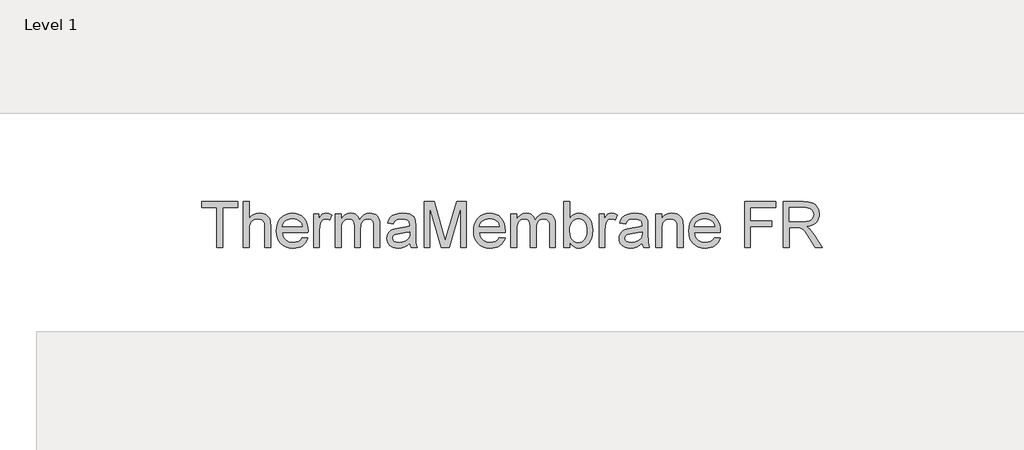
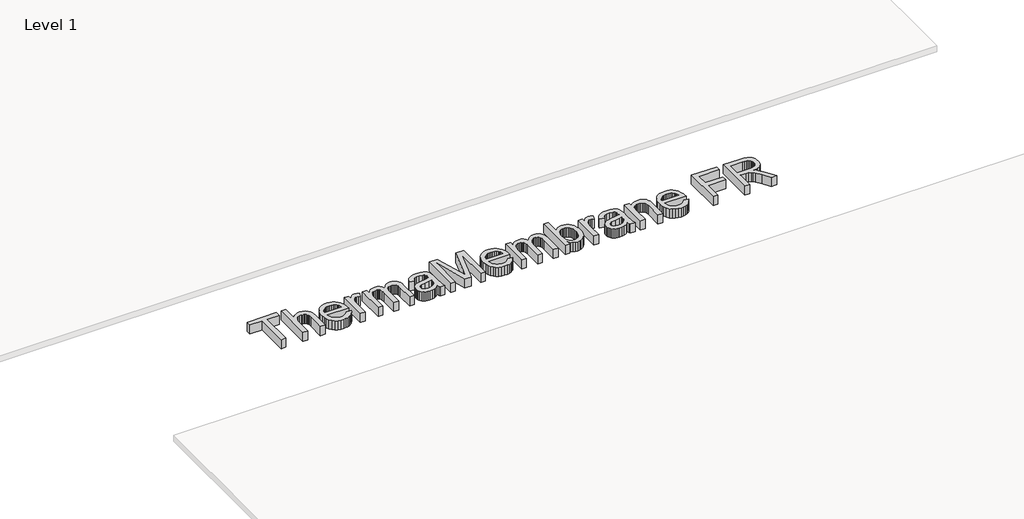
# One storey, part 26 of 27: 1 proxy.
"""IFC4 building model written with IfcOpenShell, lengths in millimetres."""

from ifc_helpers import new_model, si_unit, origin, origin_with_axes, place, context, project, spatial, polyline, outline, extrude, element, save

model = new_model("IFC4")

# Units and contexts
model_context = context("Model", 3, world=origin())
ifc_project = project(units=[si_unit("LENGTHUNIT", "METRE", prefix="MILLI")], contexts=[model_context])

# Site, building, storey
site = spatial("IfcSite", under=ifc_project)
building = spatial("IfcBuilding", under=site)
storey = spatial("IfcBuildingStorey", under=building, Name="Level 1", Elevation=0.0)

# Proxy
placement = place(None, origin())
element("IfcBuildingElementProxy", 1, Name="600mm Arial", ObjectType="600mm Arial", at=placement, inside=storey, context=model_context, shape_type="SweptSolid", body=[
    extrude(outline(polyline([(81774.77699, -34088.4076888), (81774.77699, -33571.4846119), (81580.9308362, -33571.4846119), (81580.9308362, -33497.6384581), (82042.4692977, -33497.6384581), (82042.4692977, -33571.4846119), (81848.6231439, -33571.4846119), (81848.6231439, -34088.4076888), (81774.77699, -34088.4076888)])), origin_with_axes(), (0.0, 0.0, 1.0), 150.0),
    extrude(outline(polyline([(82116.3154516, -34088.4076888), (82116.3154516, -33497.6384581), (82190.1616054, -33497.6384581), (82190.1616054, -33714.8499965), (82217.2860045, -33684.4353331), (82247.74574, -33662.7105734), (82281.5408122, -33649.6757177), (82318.6712208, -33645.3307657), (82363.2745862, -33650.0723523), (82401.6039131, -33664.2971119), (82431.7842016, -33686.8872561), (82451.9404516, -33716.7249965), (82463.2986247, -33757.7225927), (82467.0846824, -33813.7923042), (82467.0846824, -34088.4076888), (82393.2385285, -34088.4076888), (82393.2385285, -33821.436535), (82391.7691775, -33796.5026407), (82387.3611247, -33775.2105734), (82380.0143699, -33757.5603331), (82369.7289131, -33743.5519196), (82356.7481439, -33732.8878571), (82341.3154516, -33725.2706696), (82323.4308362, -33720.7003571), (82303.0942977, -33719.1769196), (82271.886365, -33723.2874965), (82242.58949, -33735.6192273), (82218.3226631, -33754.9822081), (82202.2048747, -33780.186535), (82193.1724227, -33813.6841311), (82190.1616054, -33857.9269196), (82190.1616054, -34088.4076888), (82116.3154516, -34088.4076888)])), origin_with_axes(), (0.0, 0.0, 1.0), 150.0),
    extrude(outline(polyline([(82872.3731439, -33959.1769196), (82944.77699, -33968.4076888), (82933.675728, -33997.4070879), (82918.6892497, -34022.9629773), (82899.8175549, -34045.0753571), (82877.0606439, -34063.7442273), (82850.6528915, -34078.5729532), (82820.8286727, -34089.1649004), (82787.5879876, -34095.5200686), (82750.9308362, -34097.6384581), (82705.1105237, -34093.9831095), (82664.2842016, -34083.0170638), (82628.4518699, -34064.740321), (82597.6135285, -34039.1528811), (82572.8148506, -34006.9668835), (82555.1015093, -33968.8944677), (82544.4735045, -33924.9356335), (82540.9308362, -33875.0903811), (82544.5095622, -33823.5549244), (82555.24574, -33778.1312465), (82573.1393699, -33738.8193475), (82598.1904516, -33705.6192273), (82628.9476631, -33679.2430254), (82663.9596824, -33660.4028811), (82703.2265093, -33649.0987946), (82746.7481439, -33645.3307657), (82788.8680357, -33649.0897802), (82826.9584804, -33660.3668234), (82861.019478, -33679.1618956), (82891.0510285, -33705.4749965), (82915.5657521, -33738.6030013), (82933.0762689, -33777.842785), (82943.582579, -33823.1943475), (82947.0846824, -33874.6576888), (82946.65199, -33894.561535), (82614.77699, -33894.561535), (82619.0543338, -33924.029684), (82627.559442, -33949.8379773), (82640.2923146, -33971.9864148), (82657.2529516, -33990.4749965), (82677.503853, -34005.0513186), (82700.1075189, -34015.4629773), (82725.0639492, -34021.7099725), (82752.3731439, -34023.7923042), (82791.6760285, -34019.9341311), (82824.77699, -34008.3596119), (82851.6760285, -33988.3475927), (82872.3731439, -33959.1769196)]), holes=[polyline([(82614.77699, -33820.7153811), (82873.2385285, -33820.7153811), (82863.2505477, -33781.7009581), (82854.6598025, -33766.35841), (82843.6712208, -33753.7923042), (82823.5329997, -33738.6480734), (82800.6183362, -33727.8307657), (82774.9272304, -33721.3403811), (82746.4596824, -33719.1769196), (82720.4936367, -33720.9031816), (82696.6820381, -33726.0819677), (82675.0248867, -33734.7132778), (82655.5221824, -33746.7971119), (82639.1564973, -33761.7745758), (82626.9104035, -33779.0867754), (82618.7839011, -33798.7337105), (82614.77699, -33820.7153811)])]), origin_with_axes(), (0.0, 0.0, 1.0), 150.0),
    extrude(outline(polyline([(83020.9308362, -34088.4076888), (83020.9308362, -33654.561535), (83085.5462208, -33654.561535), (83085.5462208, -33718.7442273), (83109.4164131, -33681.5326888), (83131.4116054, -33659.6096119), (83153.4789131, -33648.9004773), (83177.5654516, -33645.3307657), (83214.3442977, -33651.0278811), (83251.700067, -33668.1192273), (83227.0366054, -33734.3211504), (83201.075067, -33722.9629773), (83175.1135285, -33719.1769196), (83153.0642497, -33722.8187465), (83133.3587208, -33733.7442273), (83117.4392497, -33751.124035), (83106.7481439, -33774.1288427), (83097.7697785, -33815.3788427), (83094.77699, -33860.3788427), (83094.77699, -34088.4076888), (83020.9308362, -34088.4076888)])), origin_with_axes(), (0.0, 0.0, 1.0), 150.0),
    extrude(outline(polyline([(83297.8539131, -34088.4076888), (83297.8539131, -33654.561535), (83371.700067, -33654.561535), (83371.700067, -33725.9557657), (83393.9116054, -33693.1612946), (83422.4692977, -33667.4701888), (83456.3995862, -33650.8656215), (83494.7289131, -33645.3307657), (83535.7986247, -33650.9737946), (83553.277591, -33658.0275806), (83568.7192977, -33667.9028811), (83593.3106439, -33695.0002369), (83609.3923747, -33731.1480734), (83636.309442, -33693.6030013), (83667.012567, -33666.7850927), (83701.5017497, -33650.6943475), (83739.77699, -33645.3307657), (83769.3397905, -33647.5618355), (83795.2878074, -33654.2550446), (83817.6210405, -33665.4103931), (83836.33949, -33681.0278811), (83851.1366655, -33701.287797), (83861.7060766, -33726.3704292), (83868.0477232, -33756.2757778), (83870.1616054, -33791.0038427), (83870.1616054, -34088.4076888), (83796.3154516, -34088.4076888), (83796.3154516, -33822.7346119), (83794.6027112, -33785.9016792), (83789.46449, -33761.0759581), (83779.8370862, -33744.0747561), (83764.6567977, -33730.7153811), (83745.1315574, -33722.061535), (83722.4692977, -33719.1769196), (83701.5423146, -33721.0248763), (83682.4632881, -33726.5687465), (83665.2322184, -33735.8085302), (83649.8491054, -33748.7442273), (83637.1973626, -33765.7544436), (83628.1604035, -33787.217785), (83622.738228, -33813.1342513), (83620.9308362, -33843.5038427), (83620.9308362, -34088.4076888), (83547.0846824, -34088.4076888), (83547.0846824, -33814.5134581), (83542.8118458, -33772.7586504), (83529.9933362, -33742.9749965), (83520.081978, -33732.5633379), (83507.4392497, -33725.1264388), (83492.0651511, -33720.6642994), (83473.9596824, -33719.1769196), (83445.5101631, -33723.1432657), (83419.2962208, -33735.0423042), (83397.6616054, -33754.5855734), (83382.950067, -33781.4846119), (83374.512567, -33818.8043234), (83371.700067, -33869.6096119), (83371.700067, -34088.4076888), (83297.8539131, -34088.4076888)])), origin_with_axes(), (0.0, 0.0, 1.0), 150.0),
    extrude(outline(polyline([(84257.8539131, -34033.0230734), (84222.5714612, -34063.2754773), (84186.2433362, -34083.0711504), (84148.0402112, -34093.9966311), (84107.1327593, -34097.6384581), (84074.2526511, -34095.4479532), (84045.4200189, -34088.8764388), (84020.6348626, -34077.9239148), (83999.8971824, -34062.5903811), (83983.5224828, -34043.8493956), (83971.8262689, -34022.6745157), (83964.8085405, -33999.0657417), (83962.4692977, -33973.0230734), (83966.0029516, -33942.4100927), (83976.6039131, -33914.6096119), (83992.9560766, -33890.811535), (84013.7433362, -33872.2057657), (84038.1724227, -33858.1432657), (84065.450067, -33847.9749965), (84129.3442977, -33836.8692273), (84204.8491054, -33825.186535), (84257.4212208, -33811.4846119), (84257.8539131, -33795.0423042), (84252.7697785, -33762.0855734), (84246.4146102, -33749.8800446), (84237.5173747, -33740.5230734), (84222.1387689, -33731.1841311), (84203.4067977, -33724.5134581), (84155.8827593, -33719.1769196), (84111.8923747, -33722.7286023), (84081.1712208, -33733.3836504), (84060.2217016, -33753.0891792), (84045.5462208, -33783.7923042), (83971.700067, -33774.561535), (83984.5185766, -33734.1769196), (84003.6471824, -33702.4461504), (84030.87074, -33678.1793234), (84067.9741054, -33660.186535), (84113.3527112, -33649.0447081), (84165.40199, -33645.3307657), (84215.323865, -33648.6120157), (84254.8971824, -33658.4557657), (84284.7349227, -33673.2574484), (84305.450067, -33691.4124965), (84319.1880477, -33713.85841), (84328.0942977, -33741.5326888), (84331.700067, -33806.1480734), (84331.700067, -33898.0230734), (84335.450067, -34026.3163427), (84341.0029516, -34058.0290831), (84350.1616054, -34088.4076888), (84276.3154516, -34088.4076888), (84264.4885285, -34062.7346119), (84257.8539131, -34033.0230734)]), holes=[polyline([(84257.8539131, -33885.3307657), (84208.2385285, -33897.6264388), (84138.7192977, -33907.9749965), (84075.1856439, -33919.9461504), (84058.653192, -33928.1312465), (84046.4116054, -33939.4173042), (84038.83949, -33952.9389388), (84036.3154516, -33967.8307657), (84041.8142497, -33989.7899004), (84058.3106439, -34007.7826888), (84085.4440574, -34019.7899004), (84122.8539131, -34023.7923042), (84162.5173747, -34019.3752369), (84197.5654516, -34006.124035), (84225.9789131, -33986.5987946), (84245.7385285, -33963.3596119), (84254.5005477, -33939.4173042), (84257.4212208, -33906.2442273), (84257.8539131, -33885.3307657)])]), origin_with_axes(), (0.0, 0.0, 1.0), 150.0),
    extrude(outline(polyline([(84442.4692977, -34088.4076888), (84442.4692977, -33497.6384581), (84569.5366054, -33497.6384581), (84690.40199, -33914.0326888), (84714.77699, -34001.0038427), (84741.1712208, -33906.8211504), (84860.0173747, -33497.6384581), (84987.0846824, -33497.6384581), (84987.0846824, -34088.4076888), (84913.2385285, -34088.4076888), (84913.2385285, -33571.4846119), (84764.825067, -34088.4076888), (84664.7289131, -34088.4076888), (84516.3154516, -33571.4846119), (84516.3154516, -34088.4076888), (84442.4692977, -34088.4076888)])), origin_with_axes(), (0.0, 0.0, 1.0), 150.0),
    extrude(outline(polyline([(85410.8346824, -33959.1769196), (85483.2385285, -33968.4076888), (85472.1372665, -33997.4070879), (85457.1507881, -34022.9629773), (85438.2790934, -34045.0753571), (85415.5221824, -34063.7442273), (85389.1144299, -34078.5729532), (85359.2902112, -34089.1649004), (85326.0495261, -34095.5200686), (85289.3923747, -34097.6384581), (85243.5720622, -34093.9831095), (85202.74574, -34083.0170638), (85166.9134083, -34064.740321), (85136.075067, -34039.1528811), (85111.2763891, -34006.9668835), (85093.5630477, -33968.8944677), (85082.9350429, -33924.9356335), (85079.3923747, -33875.0903811), (85082.9711006, -33823.5549244), (85093.7072785, -33778.1312465), (85111.6009083, -33738.8193475), (85136.65199, -33705.6192273), (85167.4092016, -33679.2430254), (85202.4212208, -33660.4028811), (85241.6880477, -33649.0987946), (85285.2096824, -33645.3307657), (85327.3295742, -33649.0897802), (85365.4200189, -33660.3668234), (85399.4810165, -33679.1618956), (85429.512567, -33705.4749965), (85454.0272905, -33738.6030013), (85471.5378074, -33777.842785), (85482.0441174, -33823.1943475), (85485.5462208, -33874.6576888), (85485.1135285, -33894.561535), (85153.2385285, -33894.561535), (85157.5158723, -33924.029684), (85166.0209804, -33949.8379773), (85178.753853, -33971.9864148), (85195.71449, -33990.4749965), (85215.9653915, -34005.0513186), (85238.5690574, -34015.4629773), (85263.5254876, -34021.7099725), (85290.8346824, -34023.7923042), (85330.137567, -34019.9341311), (85363.2385285, -34008.3596119), (85390.137567, -33988.3475927), (85410.8346824, -33959.1769196)]), holes=[polyline([(85153.2385285, -33820.7153811), (85411.700067, -33820.7153811), (85401.7120862, -33781.7009581), (85393.121341, -33766.35841), (85382.1327593, -33753.7923042), (85361.9945381, -33738.6480734), (85339.0798747, -33727.8307657), (85313.3887689, -33721.3403811), (85284.9212208, -33719.1769196), (85258.9551751, -33720.9031816), (85235.1435766, -33726.0819677), (85213.4864251, -33734.7132778), (85193.9837208, -33746.7971119), (85177.6180357, -33761.7745758), (85165.371942, -33779.0867754), (85157.2454396, -33798.7337105), (85153.2385285, -33820.7153811)])]), origin_with_axes(), (0.0, 0.0, 1.0), 150.0),
    extrude(outline(polyline([(85559.3923747, -34088.4076888), (85559.3923747, -33654.561535), (85633.2385285, -33654.561535), (85633.2385285, -33725.9557657), (85655.450067, -33693.1612946), (85684.0077593, -33667.4701888), (85717.9380477, -33650.8656215), (85756.2673747, -33645.3307657), (85797.3370862, -33650.9737946), (85814.8160525, -33658.0275806), (85830.2577593, -33667.9028811), (85854.8491054, -33695.0002369), (85870.9308362, -33731.1480734), (85897.8479035, -33693.6030013), (85928.5510285, -33666.7850927), (85963.0402112, -33650.6943475), (86001.3154516, -33645.3307657), (86030.8782521, -33647.5618355), (86056.8262689, -33654.2550446), (86079.1595021, -33665.4103931), (86097.8779516, -33681.0278811), (86112.6751271, -33701.287797), (86123.2445381, -33726.3704292), (86129.5861848, -33756.2757778), (86131.700067, -33791.0038427), (86131.700067, -34088.4076888), (86057.8539131, -34088.4076888), (86057.8539131, -33822.7346119), (86056.1411727, -33785.9016792), (86051.0029516, -33761.0759581), (86041.3755477, -33744.0747561), (86026.1952593, -33730.7153811), (86006.6700189, -33722.061535), (85984.0077593, -33719.1769196), (85963.0807761, -33721.0248763), (85944.0017497, -33726.5687465), (85926.7706799, -33735.8085302), (85911.387567, -33748.7442273), (85898.7358242, -33765.7544436), (85889.698865, -33787.217785), (85884.2766896, -33813.1342513), (85882.4692977, -33843.5038427), (85882.4692977, -34088.4076888), (85808.6231439, -34088.4076888), (85808.6231439, -33814.5134581), (85804.3503074, -33772.7586504), (85791.5317977, -33742.9749965), (85781.6204396, -33732.5633379), (85768.9777112, -33725.1264388), (85753.6036126, -33720.6642994), (85735.4981439, -33719.1769196), (85707.0486247, -33723.1432657), (85680.8346824, -33735.0423042), (85659.200067, -33754.5855734), (85644.4885285, -33781.4846119), (85636.0510285, -33818.8043234), (85633.2385285, -33869.6096119), (85633.2385285, -34088.4076888), (85559.3923747, -34088.4076888)])), origin_with_axes(), (0.0, 0.0, 1.0), 150.0),
    extrude(outline(polyline([(86316.3154516, -34088.4076888), (86242.4692977, -34088.4076888), (86242.4692977, -33497.6384581), (86316.3154516, -33497.6384581), (86316.3154516, -33716.7249965), (86340.6003074, -33685.4900206), (86368.0221824, -33663.1793234), (86398.5810766, -33649.7929052), (86432.27699, -33645.3307657), (86470.3178554, -33649.3511984), (86506.2673747, -33661.4124965), (86538.0702593, -33680.7574484), (86563.6712208, -33706.6288427), (86583.7373266, -33738.7742754), (86598.9356439, -33776.9413427), (86608.5089612, -33819.5435061), (86611.700067, -33864.9942273), (86608.3962809, -33917.4401407), (86598.4849227, -33963.5759581), (86581.9659924, -34003.4016792), (86558.83949, -34036.9173042), (86531.0795742, -34063.482809), (86500.6604035, -34082.4581696), (86467.581978, -34093.8433859), (86431.8442977, -34097.6384581), (86397.0396102, -34092.7436263), (86366.18324, -34078.0591311), (86339.2751872, -34053.5849725), (86316.3154516, -34019.3211504), (86316.3154516, -34088.4076888)]), holes=[polyline([(86316.3154516, -33868.4557657), (86321.3635285, -33930.0423042), (86327.6736247, -33953.3716311), (86336.5077593, -33971.7249965), (86354.4013891, -33994.5044436), (86375.1976631, -34010.7754773), (86398.8965814, -34020.5380975), (86425.4981439, -34023.7923042), (86447.5834804, -34021.3944677), (86468.1183362, -34014.2009581), (86487.1027112, -34002.2117754), (86504.5366054, -33985.4269196), (86519.1129275, -33963.8914629), (86529.5245862, -33937.6504773), (86535.7715814, -33906.7039629), (86537.8539131, -33871.0519196), (86535.8572184, -33834.7237946), (86529.8671343, -33803.4798042), (86519.8836607, -33777.3199484), (86505.9067977, -33756.2442273), (86489.0994059, -33740.0272802), (86470.6243458, -33728.4437465), (86450.4816174, -33721.4936263), (86428.6712208, -33719.1769196), (86406.5858843, -33721.5747561), (86386.0510285, -33728.7682657), (86367.0666535, -33740.7574484), (86349.6327593, -33757.5423042), (86335.0564372, -33778.8614148), (86324.6447785, -33804.4533619), (86318.3977833, -33834.3181456), (86316.3154516, -33868.4557657)])]), origin_with_axes(), (0.0, 0.0, 1.0), 150.0),
    extrude(outline(polyline([(86694.77699, -34088.4076888), (86694.77699, -33654.561535), (86759.3923747, -33654.561535), (86759.3923747, -33718.7442273), (86783.262567, -33681.5326888), (86805.2577593, -33659.6096119), (86827.325067, -33648.9004773), (86851.4116054, -33645.3307657), (86888.1904516, -33651.0278811), (86925.5462208, -33668.1192273), (86900.8827593, -33734.3211504), (86874.9212208, -33722.9629773), (86848.9596824, -33719.1769196), (86826.9104035, -33722.8187465), (86807.2048747, -33733.7442273), (86791.2854035, -33751.124035), (86780.5942977, -33774.1288427), (86771.6159324, -33815.3788427), (86768.6231439, -33860.3788427), (86768.6231439, -34088.4076888), (86694.77699, -34088.4076888)])), origin_with_axes(), (0.0, 0.0, 1.0), 150.0),
    extrude(outline(polyline([(87248.6231439, -34033.0230734), (87213.340692, -34063.2754773), (87177.012567, -34083.0711504), (87138.809442, -34093.9966311), (87097.90199, -34097.6384581), (87065.0218819, -34095.4479532), (87036.1892497, -34088.8764388), (87011.4040934, -34077.9239148), (86990.6664131, -34062.5903811), (86974.2917136, -34043.8493956), (86962.5954997, -34022.6745157), (86955.5777713, -33999.0657417), (86953.2385285, -33973.0230734), (86956.7721824, -33942.4100927), (86967.3731439, -33914.6096119), (86983.7253074, -33890.811535), (87004.512567, -33872.2057657), (87028.9416535, -33858.1432657), (87056.2192977, -33847.9749965), (87120.1135285, -33836.8692273), (87195.6183362, -33825.186535), (87248.1904516, -33811.4846119), (87248.6231439, -33795.0423042), (87243.5390093, -33762.0855734), (87237.183841, -33749.8800446), (87228.2866054, -33740.5230734), (87212.9079997, -33731.1841311), (87194.1760285, -33724.5134581), (87146.65199, -33719.1769196), (87102.6616054, -33722.7286023), (87071.9404516, -33733.3836504), (87050.9909324, -33753.0891792), (87036.3154516, -33783.7923042), (86962.4692977, -33774.561535), (86975.2878074, -33734.1769196), (86994.4164131, -33702.4461504), (87021.6399708, -33678.1793234), (87058.7433362, -33660.186535), (87104.121942, -33649.0447081), (87156.1712208, -33645.3307657), (87206.0930958, -33648.6120157), (87245.6664131, -33658.4557657), (87275.5041535, -33673.2574484), (87296.2192977, -33691.4124965), (87309.9572785, -33713.85841), (87318.8635285, -33741.5326888), (87322.4692977, -33806.1480734), (87322.4692977, -33898.0230734), (87326.2192977, -34026.3163427), (87331.7721824, -34058.0290831), (87340.9308362, -34088.4076888), (87267.0846824, -34088.4076888), (87255.2577593, -34062.7346119), (87248.6231439, -34033.0230734)]), holes=[polyline([(87248.6231439, -33885.3307657), (87199.0077593, -33897.6264388), (87129.4885285, -33907.9749965), (87065.9548747, -33919.9461504), (87049.4224227, -33928.1312465), (87037.1808362, -33939.4173042), (87029.6087208, -33952.9389388), (87027.0846824, -33967.8307657), (87032.5834804, -33989.7899004), (87049.0798747, -34007.7826888), (87076.2132881, -34019.7899004), (87113.6231439, -34023.7923042), (87153.2866054, -34019.3752369), (87188.3346824, -34006.124035), (87216.7481439, -33986.5987946), (87236.5077593, -33963.3596119), (87245.2697785, -33939.4173042), (87248.1904516, -33906.2442273), (87248.6231439, -33885.3307657)])]), origin_with_axes(), (0.0, 0.0, 1.0), 150.0),
    extrude(outline(polyline([(87424.0077593, -34088.4076888), (87424.0077593, -33654.561535), (87497.8539131, -33654.561535), (87497.8539131, -33715.1384581), (87523.5089612, -33684.5975927), (87554.3202593, -33662.7826888), (87590.2878074, -33649.6937465), (87631.4116054, -33645.3307657), (87667.8118458, -33648.8463907), (87701.1471824, -33659.3932657), (87728.9476631, -33675.655285), (87748.7433362, -33696.3163427), (87762.1748266, -33721.3223523), (87770.8827593, -33750.6192273), (87774.77699, -33822.0134581), (87774.77699, -34088.4076888), (87700.9308362, -34088.4076888), (87700.9308362, -33831.9653811), (87698.8034324, -33793.780285), (87692.4212208, -33766.6288427), (87680.6483843, -33747.1757177), (87662.3491054, -33732.0855734), (87638.8935766, -33722.4040831), (87611.65199, -33719.1769196), (87589.2286126, -33720.9888186), (87568.4007881, -33726.4245157), (87549.1685165, -33735.4840109), (87531.5317977, -33748.1673042), (87516.7977232, -33765.9167032), (87506.2733843, -33790.1745157), (87499.9587809, -33820.9407417), (87497.8539131, -33858.2153811), (87497.8539131, -34088.4076888), (87424.0077593, -34088.4076888)])), origin_with_axes(), (0.0, 0.0, 1.0), 150.0),
    extrude(outline(polyline([(88180.0654516, -33959.1769196), (88252.4692977, -33968.4076888), (88241.3680357, -33997.4070879), (88226.3815574, -34022.9629773), (88207.5098626, -34045.0753571), (88184.7529516, -34063.7442273), (88158.3451992, -34078.5729532), (88128.5209804, -34089.1649004), (88095.2802953, -34095.5200686), (88058.6231439, -34097.6384581), (88012.8028314, -34093.9831095), (87971.9765093, -34083.0170638), (87936.1441775, -34064.740321), (87905.3058362, -34039.1528811), (87880.5071583, -34006.9668835), (87862.793817, -33968.8944677), (87852.1658122, -33924.9356335), (87848.6231439, -33875.0903811), (87852.2018699, -33823.5549244), (87862.9380477, -33778.1312465), (87880.8316775, -33738.8193475), (87905.8827593, -33705.6192273), (87936.6399708, -33679.2430254), (87971.65199, -33660.4028811), (88010.918817, -33649.0987946), (88054.4404516, -33645.3307657), (88096.5603434, -33649.0897802), (88134.6507881, -33660.3668234), (88168.7117857, -33679.1618956), (88198.7433362, -33705.4749965), (88223.2580598, -33738.6030013), (88240.7685766, -33777.842785), (88251.2748867, -33823.1943475), (88254.77699, -33874.6576888), (88254.3442977, -33894.561535), (87922.4692977, -33894.561535), (87926.7466415, -33924.029684), (87935.2517497, -33949.8379773), (87947.9846223, -33971.9864148), (87964.9452593, -33990.4749965), (87985.1961607, -34005.0513186), (88007.7998266, -34015.4629773), (88032.7562569, -34021.7099725), (88060.0654516, -34023.7923042), (88099.3683362, -34019.9341311), (88132.4692977, -34008.3596119), (88159.3683362, -33988.3475927), (88180.0654516, -33959.1769196)]), holes=[polyline([(87922.4692977, -33820.7153811), (88180.9308362, -33820.7153811), (88170.9428554, -33781.7009581), (88162.3521102, -33766.35841), (88151.3635285, -33753.7923042), (88131.2253074, -33738.6480734), (88108.3106439, -33727.8307657), (88082.6195381, -33721.3403811), (88054.15199, -33719.1769196), (88028.1859444, -33720.9031816), (88004.3743458, -33726.0819677), (87982.7171944, -33734.7132778), (87963.21449, -33746.7971119), (87946.8488049, -33761.7745758), (87934.6027112, -33779.0867754), (87926.4762088, -33798.7337105), (87922.4692977, -33820.7153811)])]), origin_with_axes(), (0.0, 0.0, 1.0), 150.0),
    extrude(outline(polyline([(88568.6231439, -34088.4076888), (88568.6231439, -33497.6384581), (88965.5462208, -33497.6384581), (88965.5462208, -33571.4846119), (88642.4692977, -33571.4846119), (88642.4692977, -33746.8692273), (88919.3923747, -33746.8692273), (88919.3923747, -33820.7153811), (88642.4692977, -33820.7153811), (88642.4692977, -34088.4076888), (88568.6231439, -34088.4076888)])), origin_with_axes(), (0.0, 0.0, 1.0), 150.0),
    extrude(outline(polyline([(89067.0846824, -34088.4076888), (89067.0846824, -33497.6384581), (89321.65199, -33497.6384581), (89390.0714612, -33501.6228331), (89439.8491054, -33513.5759581), (89459.058841, -33523.07716), (89476.231317, -33535.6432657), (89491.3665333, -33551.2742754), (89504.46449, -33569.9701888), (89515.0339011, -33590.725898), (89522.5834804, -33612.5362946), (89528.6231439, -33659.3211504), (89526.1216415, -33689.6636984), (89518.6171343, -33717.5182657), (89506.1096223, -33742.8848523), (89488.5991054, -33765.7634581), (89465.8602232, -33785.4239148), (89437.667615, -33801.1360542), (89404.0212809, -33812.8998763), (89364.9212208, -33820.7153811), (89389.2601631, -33836.6168234), (89406.8923747, -33852.3019196), (89466.7481439, -33928.311535), (89565.2577593, -34088.4076888), (89479.4404516, -34088.4076888), (89402.5654516, -33965.9557657), (89347.0366054, -33884.8980734), (89326.3935766, -33861.2622561), (89308.0221824, -33846.6048042), (89272.90199, -33832.5423042), (89230.0654516, -33829.9461504), (89140.9308362, -33829.9461504), (89140.9308362, -34088.4076888), (89067.0846824, -34088.4076888)]), holes=[polyline([(89140.9308362, -33756.0999965), (89306.2192977, -33756.0999965), (89353.6892497, -33753.4858138), (89390.5221824, -33745.6432657), (89418.2505477, -33732.0495157), (89438.4067977, -33712.1817273), (89450.684442, -33688.1492754), (89454.77699, -33662.061535), (89452.8253674, -33643.1763186), (89446.9704997, -33626.0399004), (89437.2123867, -33610.6522802), (89423.5510285, -33597.0134581), (89405.6709203, -33585.8445879), (89383.2565574, -33577.8668234), (89356.3079396, -33573.0801648), (89324.825067, -33571.4846119), (89140.9308362, -33571.4846119), (89140.9308362, -33756.0999965)])]), origin_with_axes(), (0.0, 0.0, 1.0), 150.0),
])

save(model, "model.ifc")
